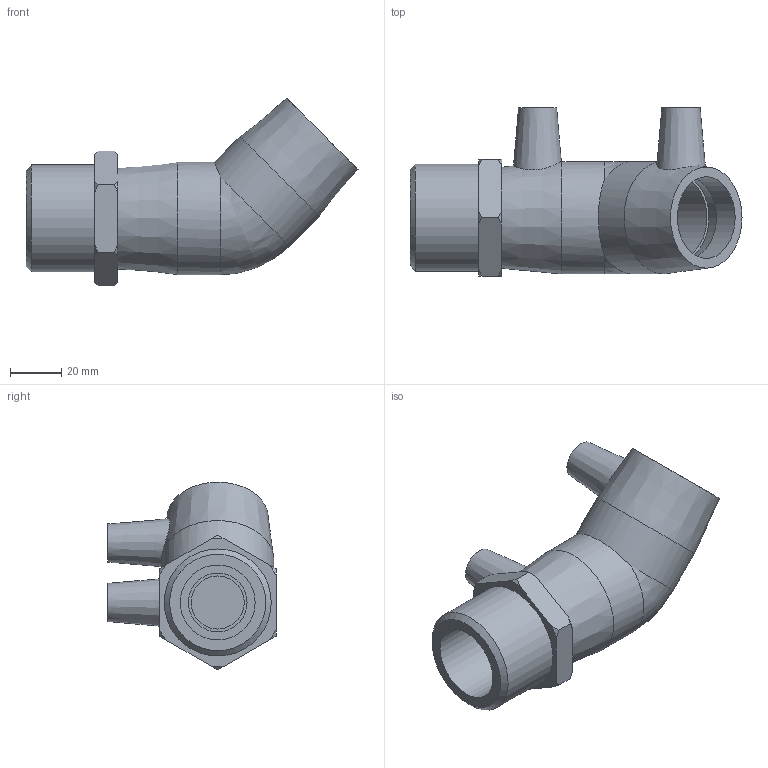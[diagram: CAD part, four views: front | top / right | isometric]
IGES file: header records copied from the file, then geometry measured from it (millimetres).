
Global section: file name: 492604032013.ipt; native system: Autodesk Inventor 2015; preprocessor: unknown; author: KIM; date: 20200202.122415; units: millimetre
Bounding box: 130 x 65.86 x 73.54 mm (x, y, z)
Volume: 123780.2 mm3; surface area: 36684.7 mm2
Topology: 1 solids, 2 shells, 59 faces, 142 edges, 97 vertices
Faces by surface type: plane 24, cone 17, revolution 10, cylinder 7, bspline 1
Full cylindrical faces by diameter (mm): 4 x2, 32 x2, 41.91 x1, 44 x2
